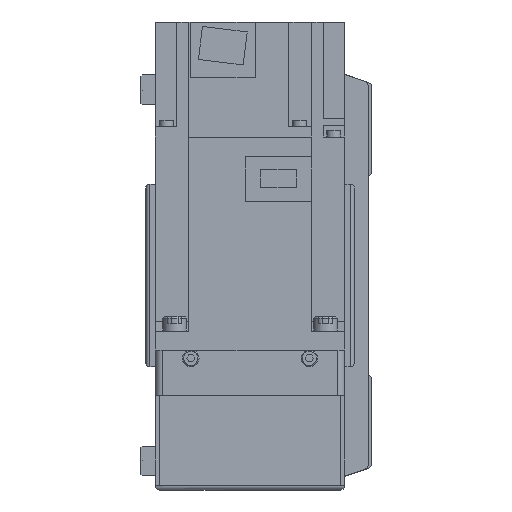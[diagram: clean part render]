
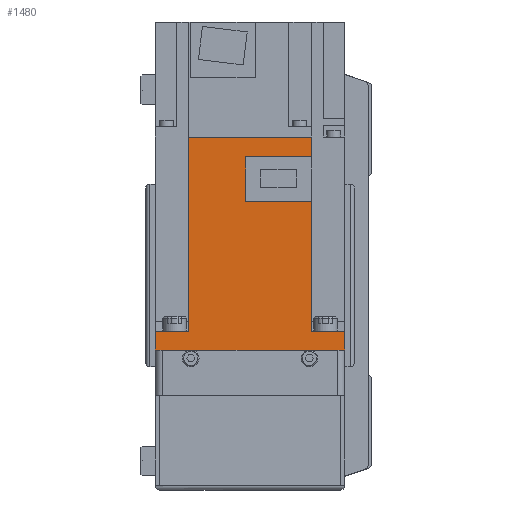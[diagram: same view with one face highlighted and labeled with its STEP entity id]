
A CAD part, left-side view. The second image highlights one B-rep face of the part: STEP entity #1480.
In plain terms, the highlighted planar face has unit normal (-1, 0, 0) as drawn and (1, 0, 0) by its records, which use the part's own axes.
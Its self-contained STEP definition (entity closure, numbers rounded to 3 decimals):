
#1480 = ADVANCED_FACE( '', ( #3718 ), #3719, .F. );
#3718 = FACE_OUTER_BOUND( '', #6964, .T. );
#3719 = PLANE( '', #6965 );
#6964 = EDGE_LOOP( '', ( #11024, #11025, #11026, #11027, #11028, #11029, #11030, #11031, #11032, #11033, #11034, #11035 ) );
#6965 = AXIS2_PLACEMENT_3D( '', #11036, #11037, #11038 );
#11024 = ORIENTED_EDGE( '', *, *, #19350, .F. );
#11025 = ORIENTED_EDGE( '', *, *, #19351, .F. );
#11026 = ORIENTED_EDGE( '', *, *, #19352, .F. );
#11027 = ORIENTED_EDGE( '', *, *, #19308, .T. );
#11028 = ORIENTED_EDGE( '', *, *, #19353, .F. );
#11029 = ORIENTED_EDGE( '', *, *, #19354, .T. );
#11030 = ORIENTED_EDGE( '', *, *, #19355, .T. );
#11031 = ORIENTED_EDGE( '', *, *, #19128, .F. );
#11032 = ORIENTED_EDGE( '', *, *, #19356, .F. );
#11033 = ORIENTED_EDGE( '', *, *, #19357, .F. );
#11034 = ORIENTED_EDGE( '', *, *, #19358, .F. );
#11035 = ORIENTED_EDGE( '', *, *, #19187, .F. );
#11036 = CARTESIAN_POINT( '', ( 40., 89.8, 40. ) );
#11037 = DIRECTION( '', ( -1., 0., 0. ) );
#11038 = DIRECTION( '', ( 0., 0., 1. ) );
#19128 = EDGE_CURVE( '', #23023, #23025, #23026, .T. );
#19187 = EDGE_CURVE( '', #23123, #23124, #23125, .T. );
#19308 = EDGE_CURVE( '', #23322, #23320, #23323, .T. );
#19350 = EDGE_CURVE( '', #23391, #23123, #23392, .T. );
#19351 = EDGE_CURVE( '', #23393, #23391, #23394, .T. );
#19352 = EDGE_CURVE( '', #23322, #23393, #23395, .T. );
#19353 = EDGE_CURVE( '', #23396, #23320, #23397, .T. );
#19354 = EDGE_CURVE( '', #23396, #23398, #23399, .T. );
#19355 = EDGE_CURVE( '', #23398, #23025, #23400, .T. );
#19356 = EDGE_CURVE( '', #23401, #23023, #23402, .T. );
#19357 = EDGE_CURVE( '', #23403, #23401, #23404, .T. );
#19358 = EDGE_CURVE( '', #23124, #23403, #23405, .T. );
#23023 = VERTEX_POINT( '', #28612 );
#23025 = VERTEX_POINT( '', #28615 );
#23026 = LINE( '', #28616, #28617 );
#23123 = VERTEX_POINT( '', #28743 );
#23124 = VERTEX_POINT( '', #28744 );
#23125 = LINE( '', #28745, #28746 );
#23320 = VERTEX_POINT( '', #29049 );
#23322 = VERTEX_POINT( '', #29052 );
#23323 = LINE( '', #29053, #29054 );
#23391 = VERTEX_POINT( '', #29169 );
#23392 = LINE( '', #29170, #29171 );
#23393 = VERTEX_POINT( '', #29172 );
#23394 = LINE( '', #29173, #29174 );
#23395 = LINE( '', #29175, #29176 );
#23396 = VERTEX_POINT( '', #29177 );
#23397 = LINE( '', #29178, #29179 );
#23398 = VERTEX_POINT( '', #29180 );
#23399 = LINE( '', #29181, #29182 );
#23400 = LINE( '', #29183, #29184 );
#23401 = VERTEX_POINT( '', #29185 );
#23402 = LINE( '', #29186, #29187 );
#23403 = VERTEX_POINT( '', #29188 );
#23404 = LINE( '', #29189, #29190 );
#23405 = LINE( '', #29191, #29192 );
#28612 = CARTESIAN_POINT( '', ( 40., 8., -40. ) );
#28615 = CARTESIAN_POINT( '', ( 40., 0., -40. ) );
#28616 = CARTESIAN_POINT( '', ( 40., 89.8, -40. ) );
#28617 = VECTOR( '', #35335, 1000. );
#28743 = CARTESIAN_POINT( '', ( 40., 81.4, 1.8 ) );
#28744 = CARTESIAN_POINT( '', ( 40., 62.8, 1.8 ) );
#28745 = CARTESIAN_POINT( '', ( 40., 81.4, 1.8 ) );
#28746 = VECTOR( '', #35416, 1000. );
#29049 = CARTESIAN_POINT( '', ( 40., 8., 25.95 ) );
#29052 = CARTESIAN_POINT( '', ( 40., 89.8, 25.95 ) );
#29053 = CARTESIAN_POINT( '', ( 40., 158., 25.95 ) );
#29054 = VECTOR( '', #35564, 1000. );
#29169 = CARTESIAN_POINT( '', ( 40., 81.4, -25.95 ) );
#29170 = CARTESIAN_POINT( '', ( 40., 81.4, -26. ) );
#29171 = VECTOR( '', #35609, 1000. );
#29172 = CARTESIAN_POINT( '', ( 40., 89.8, -25.95 ) );
#29173 = CARTESIAN_POINT( '', ( 40., 158., -25.95 ) );
#29174 = VECTOR( '', #35610, 1000. );
#29175 = CARTESIAN_POINT( '', ( 40., 89.8, 40. ) );
#29176 = VECTOR( '', #35611, 1000. );
#29177 = CARTESIAN_POINT( '', ( 40., 8., 40. ) );
#29178 = CARTESIAN_POINT( '', ( 40., 8., 40. ) );
#29179 = VECTOR( '', #35612, 1000. );
#29180 = CARTESIAN_POINT( '', ( 40., 0., 40. ) );
#29181 = CARTESIAN_POINT( '', ( 40., 89.8, 40. ) );
#29182 = VECTOR( '', #35613, 1000. );
#29183 = CARTESIAN_POINT( '', ( 40., 0., 40. ) );
#29184 = VECTOR( '', #35614, 1000. );
#29185 = CARTESIAN_POINT( '', ( 40., 8., -25.95 ) );
#29186 = CARTESIAN_POINT( '', ( 40., 8., 40. ) );
#29187 = VECTOR( '', #35615, 1000. );
#29188 = CARTESIAN_POINT( '', ( 40., 62.8, -25.95 ) );
#29189 = CARTESIAN_POINT( '', ( 40., 158., -25.95 ) );
#29190 = VECTOR( '', #35616, 1000. );
#29191 = CARTESIAN_POINT( '', ( 40., 62.8, 1.8 ) );
#29192 = VECTOR( '', #35617, 1000. );
#35335 = DIRECTION( '', ( 0., -1., 0. ) );
#35416 = DIRECTION( '', ( 0., -1., 0. ) );
#35564 = DIRECTION( '', ( 0., -1., 0. ) );
#35609 = DIRECTION( '', ( 0., 0., 1. ) );
#35610 = DIRECTION( '', ( 0., -1., 0. ) );
#35611 = DIRECTION( '', ( 0., 0., -1. ) );
#35612 = DIRECTION( '', ( 0., 0., -1. ) );
#35613 = DIRECTION( '', ( 0., -1., 0. ) );
#35614 = DIRECTION( '', ( 0., 0., -1. ) );
#35615 = DIRECTION( '', ( 0., 0., -1. ) );
#35616 = DIRECTION( '', ( 0., -1., 0. ) );
#35617 = DIRECTION( '', ( 0., 0., -1. ) );
